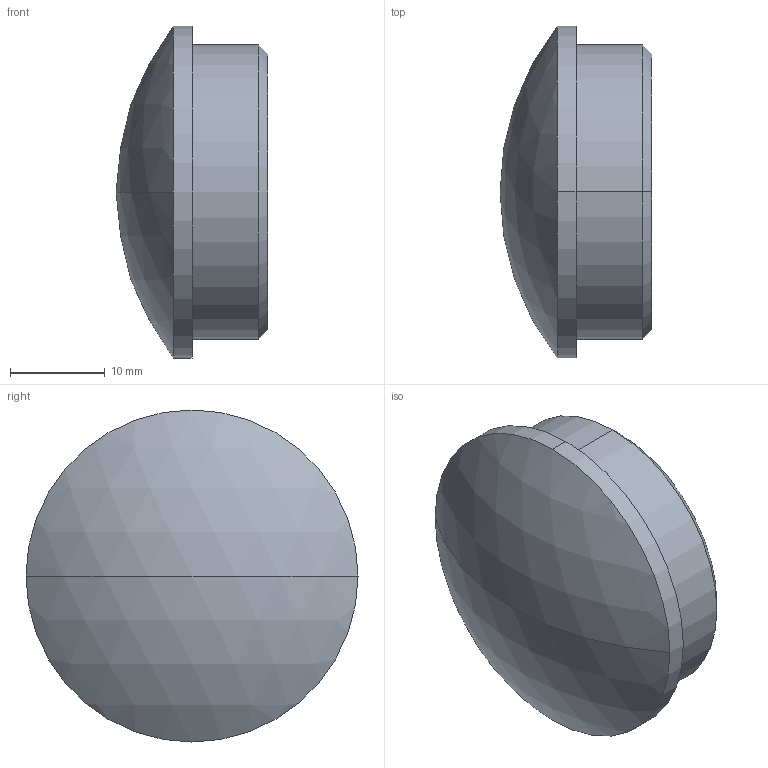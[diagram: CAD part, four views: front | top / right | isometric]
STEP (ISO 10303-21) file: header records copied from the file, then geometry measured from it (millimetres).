
FILE_DESCRIPTION (( 'STEP AP203' ), '1' );
FILE_NAME ('3D_GR1392_DN35x2_18380190.STEP', '2024-09-21T10:17:14', ( '' ), ( '' ), 'SwSTEP 2.0', 'SolidWorks 2024', '' );
FILE_SCHEMA (( 'CONFIG_CONTROL_DESIGN' ));
Length unit declared in the file: millimetre
Products named in the file (1): 3D_GR1392_DN35x2_18380190
Bounding box: 16 x 35 x 35 mm (x, y, z)
Volume: 10914.2 mm3; surface area: 2978 mm2
Topology: 1 solids, 1 shells, 10 faces, 20 edges, 13 vertices
Faces by surface type: cylinder 4, cone 2, sphere 2, plane 2
Entity records: 347 total; most frequent: DIRECTION 56, CARTESIAN_POINT 44, ORIENTED_EDGE 40, AXIS2_PLACEMENT_3D 25, EDGE_CURVE 20, CIRCLE 14, VERTEX_POINT 13, EDGE_LOOP 11
